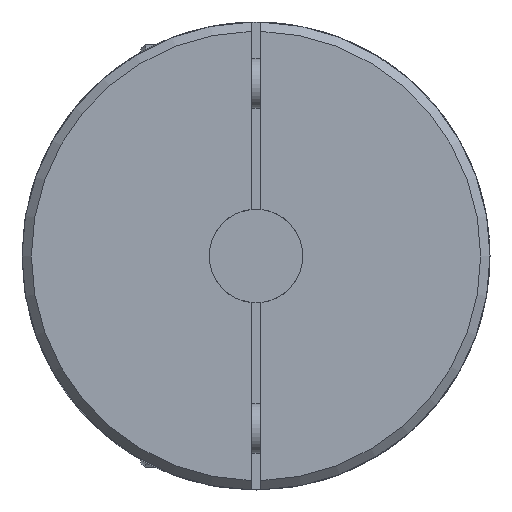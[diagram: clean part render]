
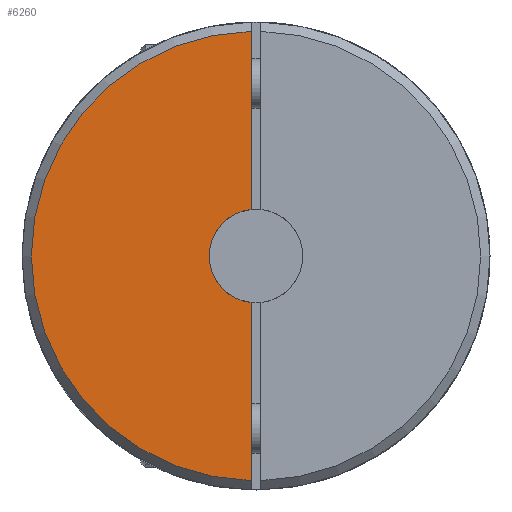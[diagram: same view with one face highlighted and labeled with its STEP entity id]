
A CAD part, left-side view. The second image highlights one B-rep face of the part: STEP entity #6260.
In plain terms, the highlighted planar face has unit normal (-1, 0, 0).
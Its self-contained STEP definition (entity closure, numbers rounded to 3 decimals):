
#550=CIRCLE('',#6722,9.5);
#594=CIRCLE('',#6790,45.6);
#1094=FACE_OUTER_BOUND('',#1507,.T.);
#1507=EDGE_LOOP('',(#4443,#4444,#4445,#4446));
#1965=LINE('',#10061,#2255);
#1988=LINE('',#10324,#2278);
#2255=VECTOR('',#7793,1000.);
#2278=VECTOR('',#7948,1000.);
#2575=VERTEX_POINT('',#10044);
#2577=VERTEX_POINT('',#10047);
#2582=VERTEX_POINT('',#10060);
#2637=VERTEX_POINT('',#10316);
#3243=EDGE_CURVE('',#2577,#2575,#550,.T.);
#3250=EDGE_CURVE('',#2582,#2577,#1965,.T.);
#3326=EDGE_CURVE('',#2582,#2637,#594,.T.);
#3329=EDGE_CURVE('',#2575,#2637,#1988,.T.);
#4443=ORIENTED_EDGE('',*,*,#3243,.T.);
#4444=ORIENTED_EDGE('',*,*,#3329,.T.);
#4445=ORIENTED_EDGE('',*,*,#3326,.F.);
#4446=ORIENTED_EDGE('',*,*,#3250,.T.);
#6098=PLANE('',#6792);
#6260=ADVANCED_FACE('',(#1094),#6098,.F.);
#6722=AXIS2_PLACEMENT_3D('',#10048,#7780,#7781);
#6790=AXIS2_PLACEMENT_3D('',#10317,#7942,#7943);
#6792=AXIS2_PLACEMENT_3D('',#10323,#7946,#7947);
#7780=DIRECTION('center_axis',(1.,0.,0.));
#7781=DIRECTION('ref_axis',(0.,0.,1.));
#7793=DIRECTION('',(0.,0.,1.));
#7942=DIRECTION('center_axis',(1.,0.,0.));
#7943=DIRECTION('ref_axis',(0.,0.,-1.));
#7946=DIRECTION('center_axis',(1.,0.,0.));
#7947=DIRECTION('ref_axis',(0.,0.,-1.));
#7948=DIRECTION('',(0.,0.,1.));
#10044=CARTESIAN_POINT('',(-167.5,1.,9.447));
#10047=CARTESIAN_POINT('',(-167.5,1.,-9.447));
#10048=CARTESIAN_POINT('Origin',(-167.5,0.,0.));
#10060=CARTESIAN_POINT('',(-167.5,1.,-45.589));
#10061=CARTESIAN_POINT('',(-167.5,1.,-47.489));
#10316=CARTESIAN_POINT('',(-167.5,1.,45.589));
#10317=CARTESIAN_POINT('Origin',(-167.5,0.,0.));
#10323=CARTESIAN_POINT('Origin',(-167.5,0.,0.));
#10324=CARTESIAN_POINT('',(-167.5,1.,-47.489));
